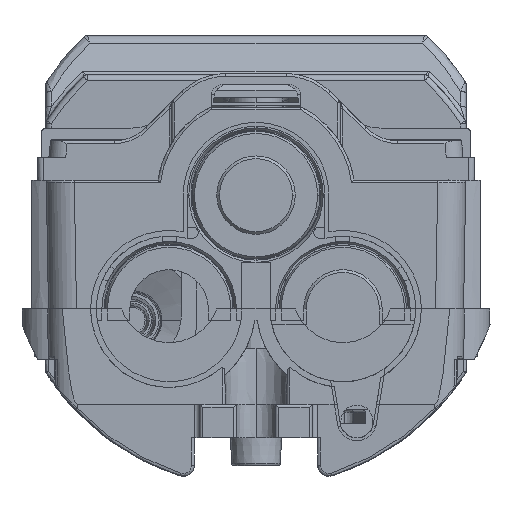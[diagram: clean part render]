
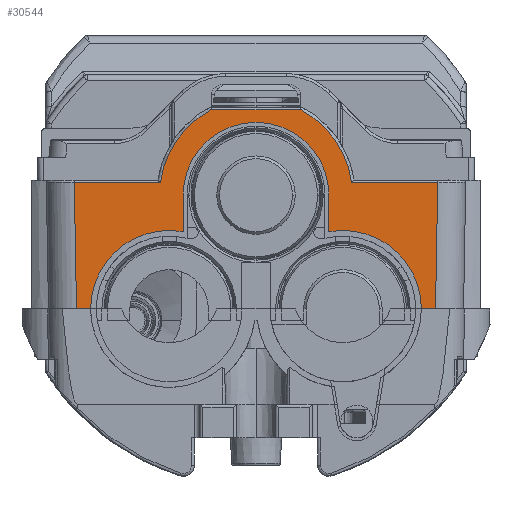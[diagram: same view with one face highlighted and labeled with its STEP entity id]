
A CAD part, left-side view. The second image highlights one B-rep face of the part: STEP entity #30544.
In plain terms, the highlighted planar face has unit normal (-1, 0, 0).
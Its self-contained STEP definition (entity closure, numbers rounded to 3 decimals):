
#442 = DIRECTION ( 'NONE',  ( 1., 0., 0. ) ) ;
#470 = AXIS2_PLACEMENT_3D ( 'NONE', #8751, #38479, #13052 ) ;
#560 = EDGE_CURVE ( 'NONE', #48122, #24603, #18388, .T. ) ;
#792 = VECTOR ( 'NONE', #51049, 1000. ) ;
#1457 = VECTOR ( 'NONE', #14295, 1000. ) ;
#1765 = CARTESIAN_POINT ( 'NONE',  ( -325.383, -17.059, 56.5 ) ) ;
#2212 = EDGE_CURVE ( 'NONE', #45549, #48122, #16026, .T. ) ;
#2877 = AXIS2_PLACEMENT_3D ( 'NONE', #24308, #53979, #28580 ) ;
#3492 = LINE ( 'NONE', #8748, #792 ) ;
#3598 = VERTEX_POINT ( 'NONE', #10518 ) ;
#4178 = LINE ( 'NONE', #31409, #1457 ) ;
#4701 = CARTESIAN_POINT ( 'NONE',  ( -325.383, -32.028, 34. ) ) ;
#4708 = CIRCLE ( 'NONE', #2877, 14. ) ;
#4959 = AXIS2_PLACEMENT_3D ( 'NONE', #25495, #55145, #29764 ) ;
#5601 = CARTESIAN_POINT ( 'NONE',  ( -325.383, 32.421, 56.5 ) ) ;
#6350 = VERTEX_POINT ( 'NONE', #52179 ) ;
#7102 = VECTOR ( 'NONE', #15842, 1000. ) ;
#7304 = CARTESIAN_POINT ( 'NONE',  ( -325.383, 37.029, 34. ) ) ;
#7815 = VECTOR ( 'NONE', #38526, 1000. ) ;
#8748 = CARTESIAN_POINT ( 'NONE',  ( -325.383, -13., 54.3 ) ) ;
#8751 = CARTESIAN_POINT ( 'NONE',  ( -325.383, 0., 54.3 ) ) ;
#9245 = CARTESIAN_POINT ( 'NONE',  ( -325.383, 32.028, 34. ) ) ;
#9523 = ORIENTED_EDGE ( 'NONE', *, *, #25302, .T. ) ;
#9833 = EDGE_CURVE ( 'NONE', #24603, #11738, #22104, .T. ) ;
#10518 = CARTESIAN_POINT ( 'NONE',  ( -325.383, -13., 54.3 ) ) ;
#10539 = DIRECTION ( 'NONE',  ( 0., 0., -1. ) ) ;
#10840 = DIRECTION ( 'NONE',  ( 0., -0.017, 1. ) ) ;
#11245 = EDGE_CURVE ( 'NONE', #29526, #37847, #4708, .T. ) ;
#11680 = ORIENTED_EDGE ( 'NONE', *, *, #51014, .F. ) ;
#11738 = VERTEX_POINT ( 'NONE', #18955 ) ;
#13052 = DIRECTION ( 'NONE',  ( 0., 0., -1. ) ) ;
#13236 = CARTESIAN_POINT ( 'NONE',  ( -325.383, 0., 54.3 ) ) ;
#13695 = CARTESIAN_POINT ( 'NONE',  ( -325.383, 0., 54.3 ) ) ;
#14178 = VECTOR ( 'NONE', #37424, 1000. ) ;
#14295 = DIRECTION ( 'NONE',  ( 0., -1., 0. ) ) ;
#14938 = CIRCLE ( 'NONE', #32349, 13. ) ;
#15807 = VECTOR ( 'NONE', #10539, 1000. ) ;
#15842 = DIRECTION ( 'NONE',  ( 0., 1., 0. ) ) ;
#16026 = CIRCLE ( 'NONE', #49980, 17.2 ) ;
#16352 = EDGE_CURVE ( 'NONE', #3598, #54839, #14938, .T. ) ;
#17482 = EDGE_CURVE ( 'NONE', #29526, #48725, #17521, .T. ) ;
#17505 = DIRECTION ( 'NONE',  ( 0., -1., 0. ) ) ;
#17521 = LINE ( 'NONE', #7304, #50016 ) ;
#18192 = AXIS2_PLACEMENT_3D ( 'NONE', #21255, #442, #30186 ) ;
#18388 = LINE ( 'NONE', #50319, #7102 ) ;
#18955 = CARTESIAN_POINT ( 'NONE',  ( -325.383, 17.059, 56.5 ) ) ;
#19425 = CARTESIAN_POINT ( 'NONE',  ( -325.383, 13., 54.3 ) ) ;
#19474 = VERTEX_POINT ( 'NONE', #45234 ) ;
#20915 = CARTESIAN_POINT ( 'NONE',  ( -325.383, -29.5, 34. ) ) ;
#21255 = CARTESIAN_POINT ( 'NONE',  ( -325.383, 37.029, 76. ) ) ;
#21589 = CARTESIAN_POINT ( 'NONE',  ( -325.383, 37.029, 56.5 ) ) ;
#22104 = CIRCLE ( 'NONE', #470, 17.2 ) ;
#22126 = VECTOR ( 'NONE', #46953, 1000. ) ;
#24308 = CARTESIAN_POINT ( 'NONE',  ( -325.383, -15.5, 34. ) ) ;
#24603 = VERTEX_POINT ( 'NONE', #26863 ) ;
#25302 = EDGE_CURVE ( 'NONE', #6350, #45549, #52941, .T. ) ;
#25495 = CARTESIAN_POINT ( 'NONE',  ( -325.383, 15.5, 34. ) ) ;
#25555 = EDGE_LOOP ( 'NONE', ( #49831, #52637, #42138, #26903, #49598, #11680, #26665, #32817, #25583, #52284, #28009, #9523, #26091, #39210 ) ) ;
#25583 = ORIENTED_EDGE ( 'NONE', *, *, #11245, .F. ) ;
#26091 = ORIENTED_EDGE ( 'NONE', *, *, #2212, .T. ) ;
#26255 = VERTEX_POINT ( 'NONE', #9245 ) ;
#26665 = ORIENTED_EDGE ( 'NONE', *, *, #16352, .F. ) ;
#26863 = CARTESIAN_POINT ( 'NONE',  ( -325.383, 8.05, 69.5 ) ) ;
#26903 = ORIENTED_EDGE ( 'NONE', *, *, #31085, .T. ) ;
#28009 = ORIENTED_EDGE ( 'NONE', *, *, #42744, .T. ) ;
#28504 = CARTESIAN_POINT ( 'NONE',  ( -325.383, 13., 54.3 ) ) ;
#28580 = DIRECTION ( 'NONE',  ( 0., -1., 0. ) ) ;
#29526 = VERTEX_POINT ( 'NONE', #20915 ) ;
#29764 = DIRECTION ( 'NONE',  ( 0., -1., 0. ) ) ;
#30186 = DIRECTION ( 'NONE',  ( 0., 0., -1. ) ) ;
#30438 = EDGE_CURVE ( 'NONE', #40341, #26255, #48041, .T. ) ;
#30544 = ADVANCED_FACE ( 'NONE', ( #42737 ), #47015, .F. ) ;
#30773 = VERTEX_POINT ( 'NONE', #50503 ) ;
#31085 = EDGE_CURVE ( 'NONE', #26255, #30773, #4178, .T. ) ;
#31218 = CARTESIAN_POINT ( 'NONE',  ( -325.383, -8.05, 69.5 ) ) ;
#31409 = CARTESIAN_POINT ( 'NONE',  ( -325.383, 37.029, 34. ) ) ;
#32349 = AXIS2_PLACEMENT_3D ( 'NONE', #13236, #42903, #17505 ) ;
#32377 = EDGE_CURVE ( 'NONE', #37847, #3598, #3492, .T. ) ;
#32406 = EDGE_CURVE ( 'NONE', #11738, #40341, #54642, .T. ) ;
#32761 = DIRECTION ( 'NONE',  ( 0., -1., 0. ) ) ;
#32817 = ORIENTED_EDGE ( 'NONE', *, *, #32377, .F. ) ;
#33143 = CARTESIAN_POINT ( 'NONE',  ( -325.383, 32.762, 76.074 ) ) ;
#36273 = CARTESIAN_POINT ( 'NONE',  ( -325.383, -32.74, 74.782 ) ) ;
#37424 = DIRECTION ( 'NONE',  ( 0., -0.017, -1. ) ) ;
#37847 = VERTEX_POINT ( 'NONE', #53841 ) ;
#38479 = DIRECTION ( 'NONE',  ( -1., 0., 0. ) ) ;
#38526 = DIRECTION ( 'NONE',  ( 0., 1., 0. ) ) ;
#38788 = EDGE_CURVE ( 'NONE', #19474, #30773, #45920, .T. ) ;
#39128 = DIRECTION ( 'NONE',  ( 0., 0., -1. ) ) ;
#39210 = ORIENTED_EDGE ( 'NONE', *, *, #560, .T. ) ;
#40341 = VERTEX_POINT ( 'NONE', #5601 ) ;
#42138 = ORIENTED_EDGE ( 'NONE', *, *, #30438, .T. ) ;
#42737 = FACE_OUTER_BOUND ( 'NONE', #25555, .T. ) ;
#42744 = EDGE_CURVE ( 'NONE', #48725, #6350, #43892, .T. ) ;
#42903 = DIRECTION ( 'NONE',  ( -1., 0., 0. ) ) ;
#43358 = DIRECTION ( 'NONE',  ( -1., 0., 0. ) ) ;
#43892 = LINE ( 'NONE', #36273, #52537 ) ;
#45234 = CARTESIAN_POINT ( 'NONE',  ( -325.383, 13., 47.775 ) ) ;
#45549 = VERTEX_POINT ( 'NONE', #1765 ) ;
#45920 = CIRCLE ( 'NONE', #4959, 14. ) ;
#46632 = CARTESIAN_POINT ( 'NONE',  ( -325.383, 37.029, 56.5 ) ) ;
#46953 = DIRECTION ( 'NONE',  ( 0., 1., 0. ) ) ;
#47015 = PLANE ( 'NONE',  #18192 ) ;
#48041 = LINE ( 'NONE', #33143, #14178 ) ;
#48122 = VERTEX_POINT ( 'NONE', #31218 ) ;
#48313 = LINE ( 'NONE', #19425, #15807 ) ;
#48725 = VERTEX_POINT ( 'NONE', #4701 ) ;
#49598 = ORIENTED_EDGE ( 'NONE', *, *, #38788, .F. ) ;
#49831 = ORIENTED_EDGE ( 'NONE', *, *, #9833, .T. ) ;
#49980 = AXIS2_PLACEMENT_3D ( 'NONE', #13695, #43358, #39128 ) ;
#50016 = VECTOR ( 'NONE', #32761, 1000. ) ;
#50319 = CARTESIAN_POINT ( 'NONE',  ( -325.383, 37.029, 69.5 ) ) ;
#50503 = CARTESIAN_POINT ( 'NONE',  ( -325.383, 29.5, 34. ) ) ;
#51014 = EDGE_CURVE ( 'NONE', #54839, #19474, #48313, .T. ) ;
#51049 = DIRECTION ( 'NONE',  ( 0., 0., 1. ) ) ;
#52179 = CARTESIAN_POINT ( 'NONE',  ( -325.383, -32.421, 56.5 ) ) ;
#52284 = ORIENTED_EDGE ( 'NONE', *, *, #17482, .T. ) ;
#52537 = VECTOR ( 'NONE', #10840, 1000. ) ;
#52637 = ORIENTED_EDGE ( 'NONE', *, *, #32406, .T. ) ;
#52941 = LINE ( 'NONE', #46632, #7815 ) ;
#53841 = CARTESIAN_POINT ( 'NONE',  ( -325.383, -13., 47.775 ) ) ;
#53979 = DIRECTION ( 'NONE',  ( -1., 0., 0. ) ) ;
#54642 = LINE ( 'NONE', #21589, #22126 ) ;
#54839 = VERTEX_POINT ( 'NONE', #28504 ) ;
#55145 = DIRECTION ( 'NONE',  ( -1., 0., 0. ) ) ;
